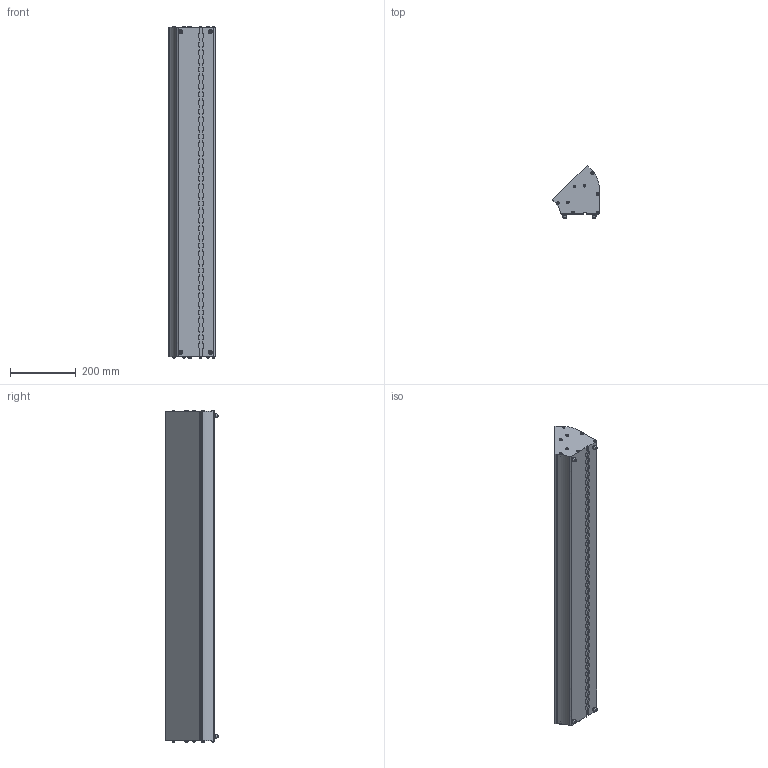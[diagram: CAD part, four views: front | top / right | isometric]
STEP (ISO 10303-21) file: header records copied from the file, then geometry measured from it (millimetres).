
FILE_DESCRIPTION(/* description */ (''),/* implementation_level */ '2;1');
FILE_NAME(/* name */ 'Q:\Sunbeam-Office\005 Dalis\CAD-Daten\DALIS860_3D.stp',/* time_stamp */ '2015-12-04T16:19:47+01:00',/* author */ ('t.fauck'),/* organization */ ('Laser Imagineering'),/* preprocessor_version */ 'ST-DEVELOPER v15.2',/* originating_system */ 'Autodesk Inventor 2014',/* authorisation */ '');
FILE_SCHEMA (('AUTOMOTIVE_DESIGN { 1 0 10303 214 3 1 1 }'));
Length unit declared in the file: centimetre
Products named in the file (2): Bauteil4; Baugruppe3
Bounding box: 140.48 x 159.09 x 1006.4 mm (x, y, z)
Volume: 13605702.7 mm3; surface area: 619028.6 mm2
Topology: 1 solids, 1 shells, 620 faces, 1686 edges, 1112 vertices
Faces by surface type: cylinder 323, plane 161, cone 56, torus 56, bspline 20, sphere 4
Full cylindrical faces by diameter (mm): 4.2 x8, 5 x4, 6 x4, 8 x16, 10 x4
Entity records: 19376 total; most frequent: CARTESIAN_POINT 4229, DIRECTION 3400, ORIENTED_EDGE 2892, EDGE_CURVE 1446, AXIS2_PLACEMENT_3D 1417, VERTEX_POINT 1028, EDGE_LOOP 852, CIRCLE 814
